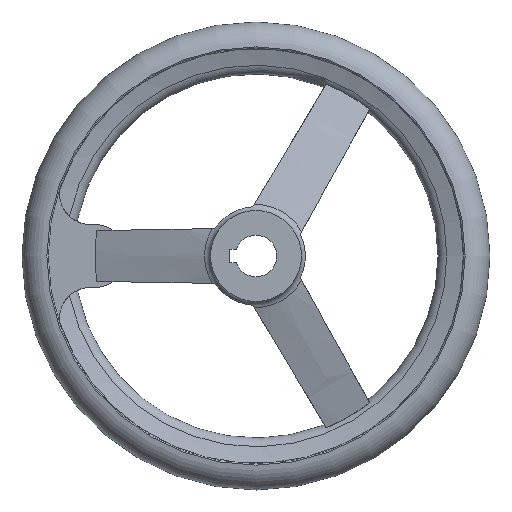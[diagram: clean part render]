
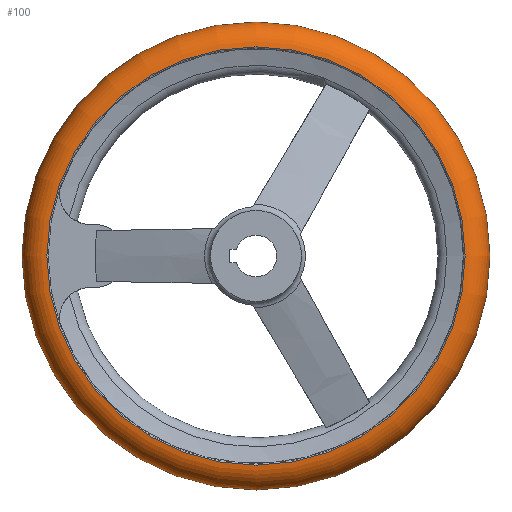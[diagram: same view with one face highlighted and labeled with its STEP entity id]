
A CAD part, left-side view. The second image highlights one B-rep face of the part: STEP entity #100.
In plain terms, the highlighted toroidal (fillet/blend) face has major radius 79.991 mm and minor radius 10.009 mm.
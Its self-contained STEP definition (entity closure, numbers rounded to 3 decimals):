
#100 = ADVANCED_FACE( '', ( #179, #180, #181 ), #182, .T. );
#179 = FACE_BOUND( '', #284, .T. );
#180 = FACE_OUTER_BOUND( '', #285, .T. );
#181 = FACE_OUTER_BOUND( '', #286, .T. );
#182 = TOROIDAL_SURFACE( '', #287, 79.991, 10.009 );
#284 = VERTEX_LOOP( '', #548 );
#285 = EDGE_LOOP( '', ( #549 ) );
#286 = EDGE_LOOP( '', ( #550 ) );
#287 = AXIS2_PLACEMENT_3D( '', #551, #552, #553 );
#548 = VERTEX_POINT( '', #778 );
#549 = ORIENTED_EDGE( '', *, *, #779, .T. );
#550 = ORIENTED_EDGE( '', *, *, #777, .F. );
#551 = CARTESIAN_POINT( '', ( 33., 0., 0. ) );
#552 = DIRECTION( '', ( -1., 0., 0. ) );
#553 = DIRECTION( '', ( 0., -1., 0. ) );
#777 = EDGE_CURVE( '', #958, #958, #959, .T. );
#778 = CARTESIAN_POINT( '', ( 33., -90., 0. ) );
#779 = EDGE_CURVE( '', #960, #960, #961, .T. );
#958 = VERTEX_POINT( '', #1576 );
#959 = CIRCLE( '', #1577, 80.417 );
#960 = VERTEX_POINT( '', #1578 );
#961 = CIRCLE( '', #1579, 80.417 );
#1576 = CARTESIAN_POINT( '', ( 23., -80.417, 0. ) );
#1577 = AXIS2_PLACEMENT_3D( '', #1739, #1740, #1741 );
#1578 = CARTESIAN_POINT( '', ( 43., -80.417, 0. ) );
#1579 = AXIS2_PLACEMENT_3D( '', #1742, #1743, #1744 );
#1739 = CARTESIAN_POINT( '', ( 23., 0., 0. ) );
#1740 = DIRECTION( '', ( -1., 0., 0. ) );
#1741 = DIRECTION( '', ( 0., -1., 0. ) );
#1742 = CARTESIAN_POINT( '', ( 43., 0., 0. ) );
#1743 = DIRECTION( '', ( -1., 0., 0. ) );
#1744 = DIRECTION( '', ( 0., -1., 0. ) );
